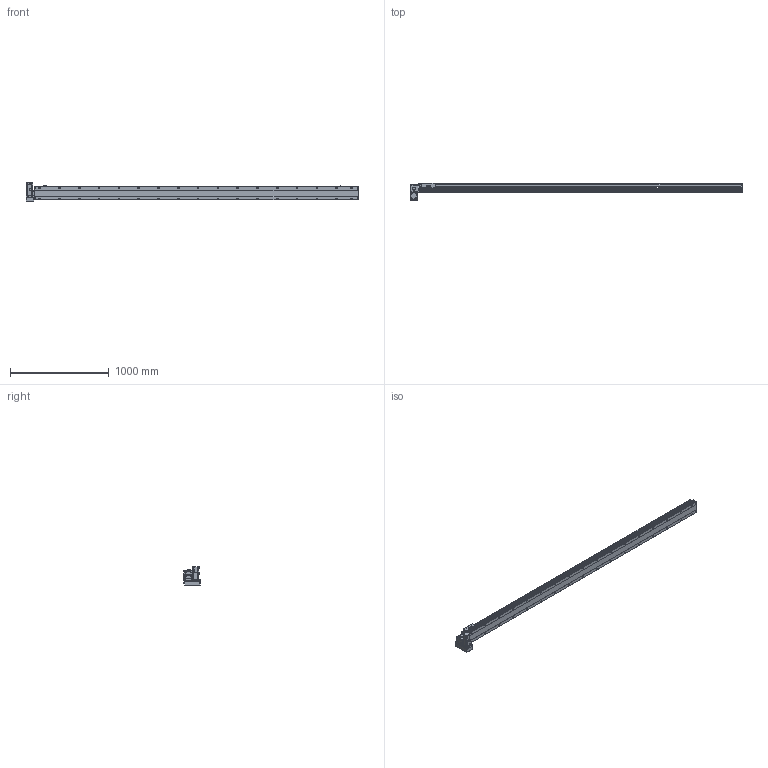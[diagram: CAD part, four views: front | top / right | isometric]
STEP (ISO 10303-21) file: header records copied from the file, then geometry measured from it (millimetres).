
FILE_DESCRIPTION( ( 'STEP AP214' ), '1' );
FILE_NAME( 'x:/temp/worker_6/temp/exporttempdir_5396_116_qgVAe/format_0/PBS140S-P40-S3000-LD-T40-C1-N(0).stp', '2022-06-09T00:29:52', ( 'License CC BY-ND 4.0' ), ( 'CADENAS' ), ' ', 'PARTsolutions', ' ' );
FILE_SCHEMA( ( 'AUTOMOTIVE_DESIGN { 1 0 10303 214 1 1 1 1 }' ) );
Length unit declared in the file: millimetre
Products named in the file (7): PBS140S-P40-S3000-LD-T40-C1-N(0); _PBS140S-S3000()_body; _PBS140ST-LD_motors; _T40-p1; _PBS140S_sliser; _PBS140S_plant; _PBS140S_sensor
Assembly tree (8 placements, depth 2):
  PBS140S-P40-S3000-LD-T40-C1-N(0)
    _PBS140S-S3000()_body
    _PBS140ST-LD_motors
    _T40-p1
    _PBS140S_sliser
    _PBS140S_plant
    _PBS140S_sensor  x3
Bounding box: 3354 x 172.5 x 189.7 mm (x, y, z)
Volume: 16147224.2 mm3; surface area: 2709289.5 mm2
Topology: 8 solids, 8 shells, 1243 faces, 3271 edges, 2139 vertices
Faces by surface type: plane 756, cylinder 417, cone 60, sphere 8, torus 2
Full cylindrical faces by diameter (mm): 3.242 x4, 4 x2, 4.134 x4, 4.4 x8, 4.5 x2, 4.8 x4, 4.917 x42, 5.5 x7, 6 x2, 7 x36, 7.5 x8, 8 x12, 8.5 x4, 10.5 x34, 14 x1, 30 x2, 50 x2
Entity records: 46114 total; most frequent: CARTESIAN_POINT 7918, DIRECTION 5978, ORIENTED_EDGE 5602, EDGE_CURVE 2801, AXIS2_PLACEMENT_3D 2129, VERTEX_POINT 1969, LINE 1720, VECTOR 1720
